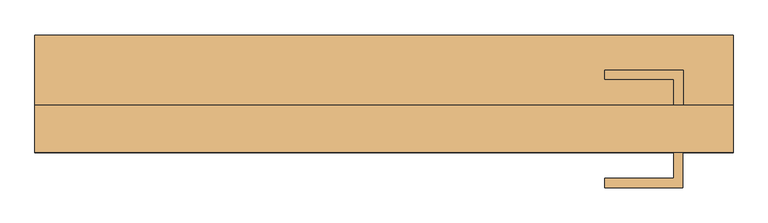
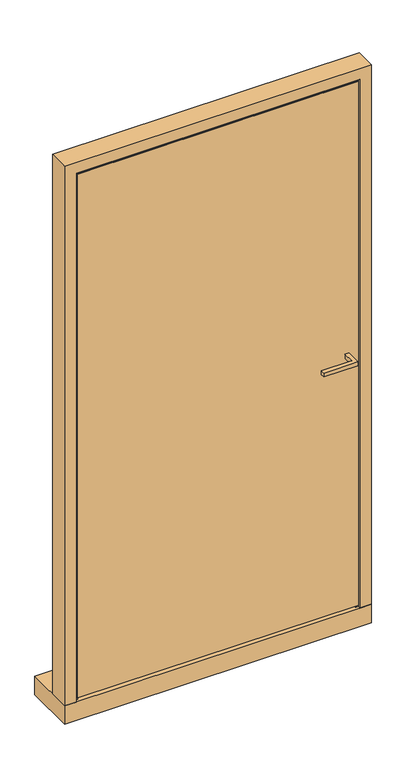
"""IFC4 building model written with IfcOpenShell, lengths in millimetres: door geometry, Reynaers_MasterLine 8_Door_Panel_Inward Opening_Single Vent_Double Sided : Reynaers_MasterLine 8_Door_Panel_Inward Opening_Single Vent_Double Sided."""

from ifc_helpers import new_model, si_unit, frame, origin, place, context, project, spatial, polyline, outline, extrude, faceted_brep, source, transform, mapped, element, save


def door_22224a55(model_context):
    return source(origin(), model_context, "Body", "SolidModel", [
        extrude(outline(polyline([(488.2934348, 42.5), (473.2934348, 42.5), (473.2934348, 85.0), (360.7934348, 85.0), (360.7934348, 100.0), (488.2934348, 100.0), (488.2934348, 42.5)])), frame((0.0, 0.0, 1001.0), z_axis=(0.0, 0.0, 1.0), x_axis=(1.0, 0.0, 0.0)), (0.0, 0.0, 1.0), 15.0),
        extrude(outline(polyline([(488.0, -34.5), (488.0, -92.0), (360.5, -92.0), (360.5, -77.0), (473.0, -77.0), (473.0, -34.5), (488.0, -34.5)])), frame((0.0, 0.0, 1001.0), z_axis=(0.0, 0.0, 1.0), x_axis=(1.0, 0.0, 0.0)), (0.0, 0.0, 1.0), 15.0),
        extrude(outline(polyline([(-501.5, 39.5), (-501.5, 42.5), (501.5, 42.5), (501.5, 39.5), (-501.5, 39.5)])), frame((0.0, 0.0, 11.0), z_axis=(0.0, 0.0, 1.0), x_axis=(1.0, 0.0, 0.0)), (0.0, 0.0, 1.0), 26.0),
        extrude(outline(polyline([(-17.1888509, 29.0), (2.4044134, 29.0), (2.1867968, 1.0), (-17.1888509, 1.0), (-17.1888509, 29.0)])), frame((-501.5, 0.0, 0.0), z_axis=(1.0, 0.0, 0.0), x_axis=(0.0, 1.0, 0.0)), (0.0, 0.0, 1.0), 1003.0),
        faceted_brep([(-501.5, 38.7001836, 0.0), (-516.5, 38.7001836, 0.0), (-516.5, -25.7, 0.0), (-527.5, -25.7, 0.0), (-527.5, -34.5, 0.0), (-570.0, -34.5, 0.0), (-570.0, 42.5, 0.0), (-501.5, 42.5, 0.0), (-501.5, 38.7001836, 2051.5), (501.5, 38.7001836, 2051.5), (501.5, 38.7001836, 0.0), (516.5, 38.7001836, 0.0), (516.5, 38.7001836, 2066.5), (-516.5, 38.7001836, 2066.5), (-570.0, -34.5, 2120.0), (-570.0, 42.5, 2120.0), (570.0, 42.5, 2120.0), (570.0, 42.5, 0.0), (501.5, 42.5, 0.0), (501.5, 42.5, 2051.5), (-501.5, 42.5, 2051.5), (570.0, -34.5, 2120.0), (570.0, -34.5, 0.0), (527.5, -34.5, 0.0), (527.5, -25.7, 0.0), (516.5, -25.7, 0.0), (-516.5, -25.7, 2066.5), (-527.5, -34.5, 2077.5), (527.5, -34.5, 2077.5), (516.5, -25.7, 2066.5), (527.5, -25.7, 2077.5), (-527.5, -25.7, 2077.5)], [[[0, 1, 2, 3, 4, 5, 6, 7]], [[1, 0, 8, 9, 10, 11, 12, 13]], [[6, 5, 14, 15]], [[7, 6, 15, 16, 17, 18, 19, 20]], [[0, 7, 20, 8]], [[15, 14, 21, 16]], [[8, 20, 19, 9]], [[10, 18, 17, 22, 23, 24, 25, 11]], [[16, 21, 22, 17]], [[9, 19, 18, 10]], [[2, 1, 13, 26]], [[5, 4, 27, 28, 23, 22, 21, 14]], [[26, 13, 12, 29]], [[29, 12, 11, 25]], [[3, 2, 26, 29, 25, 24, 30, 31]], [[4, 3, 31, 27]], [[27, 31, 30, 28]], [[28, 30, 24, 23]]]),
        faceted_brep([(-444.0, -31.5, 1994.0), (-444.0, 39.5, 1994.0), (444.0, 39.5, 1994.0), (444.0, -31.5, 1994.0), (-495.5, -25.7, 2045.5), (-495.5, -31.5, 2045.5), (495.5, -31.5, 2045.5), (495.5, -25.7, 2045.5), (444.0, 39.5, 91.5), (444.0, -31.5, 91.5), (495.5, -31.5, 40.0), (495.5, -25.7, 40.0), (-444.0, 39.5, 91.5), (-444.0, -31.5, 91.5), (-495.5, -31.5, 40.0), (-495.5, -25.7, 40.0), (-506.5, -25.7, 2056.5), (-506.5, -25.7, 29.0), (506.5, -25.7, 29.0), (506.5, -25.7, 2056.5), (-506.5, 33.7001837, 2056.5), (506.5, 33.7001837, 2056.5), (-495.5, 39.5, 2045.5), (-495.5, 33.7001837, 2045.5), (495.5, 33.7001837, 2045.5), (495.5, 39.5, 2045.5), (506.5, 33.7001837, 29.0), (495.5, 33.7001837, 40.0), (495.5, 39.5, 40.0), (-506.5, 33.7001837, 29.0), (-495.5, 33.7001837, 40.0), (-495.5, 39.5, 40.0)], [[[0, 1, 2, 3]], [[4, 5, 6, 7]], [[3, 2, 8, 9]], [[7, 6, 10, 11]], [[9, 8, 12, 13]], [[11, 10, 14, 15]], [[13, 12, 1, 0]], [[5, 14, 10, 6], [3, 9, 13, 0]], [[15, 14, 5, 4]], [[16, 17, 18, 19], [7, 11, 15, 4]], [[20, 16, 19, 21]], [[22, 23, 24, 25]], [[21, 19, 18, 26]], [[25, 24, 27, 28]], [[26, 18, 17, 29]], [[28, 27, 30, 31]], [[29, 17, 16, 20]], [[21, 26, 29, 20], [23, 30, 27, 24]], [[31, 30, 23, 22]], [[25, 28, 31, 22], [1, 12, 8, 2]]]),
        extrude(outline(polyline([(495.5, 42.5), (495.5, 39.5), (-495.5, 39.5), (-495.5, 42.5), (495.5, 42.5)])), frame((0.0, 0.0, 37.0), z_axis=(0.0, 0.0, 1.0), x_axis=(1.0, 0.0, 0.0)), (0.0, 0.0, 1.0), 2008.5),
        extrude(outline(polyline([(521.5, -31.5), (521.5, -34.5), (-521.5, -34.5), (-521.5, -31.5), (521.5, -31.5)])), frame((0.0, 0.0, 14.0), z_axis=(0.0, 0.0, 1.0), x_axis=(1.0, 0.0, 0.0)), (0.0, 0.0, 1.0), 2057.5),
        extrude(outline(polyline([(439.0, -31.5), (-439.0, -31.5), (-439.0, 39.5), (439.0, 39.5), (439.0, -31.5)])), frame((0.0, 0.0, 96.5), z_axis=(0.0, 0.0, 1.0), x_axis=(1.0, 0.0, 0.0)), (0.0, 0.0, 1.0), 1892.5),
        extrude(outline(polyline([(-570.0, -34.7999853), (-570.0, 157.2000147), (570.0, 157.2000147), (570.0, -34.7999853), (-570.0, -34.7999853)])), frame((0.0, 0.0, -72.0), z_axis=(0.0, 0.0, 1.0), x_axis=(1.0, 0.0, 0.0)), (0.0, 0.0, 1.0), 73.0),
    ])


if __name__ == "__main__":
    model = new_model("IFC4")
    model_context = context("Model", 3, world=origin())
    ifc_project = project(units=[si_unit("LENGTHUNIT", "METRE", prefix="MILLI")], contexts=[model_context])
    site = spatial("IfcSite", under=ifc_project)
    building = spatial("IfcBuilding", under=site)
    placement = place(None, origin())
    door_shape = door_22224a55(model_context)
    element("IfcDoor", 1, ObjectType="Reynaers_MasterLine 8_Door_Panel_Inward Opening_Single Vent_Double Sided : Reynaers_MasterLine 8_Door_Panel_Inward Opening_Single Vent_Double Sided", at=placement, inside=building, context=model_context, shape_type="MappedRepresentation", body=[
        mapped(door_shape, transform((0.0, 0.0, 0.0), x_axis=(1.0, 0.0, 0.0), y_axis=(0.0, 1.0, 0.0), z_axis=(0.0, 0.0, 1.0))),
    ])
    save(model, "model.ifc")
